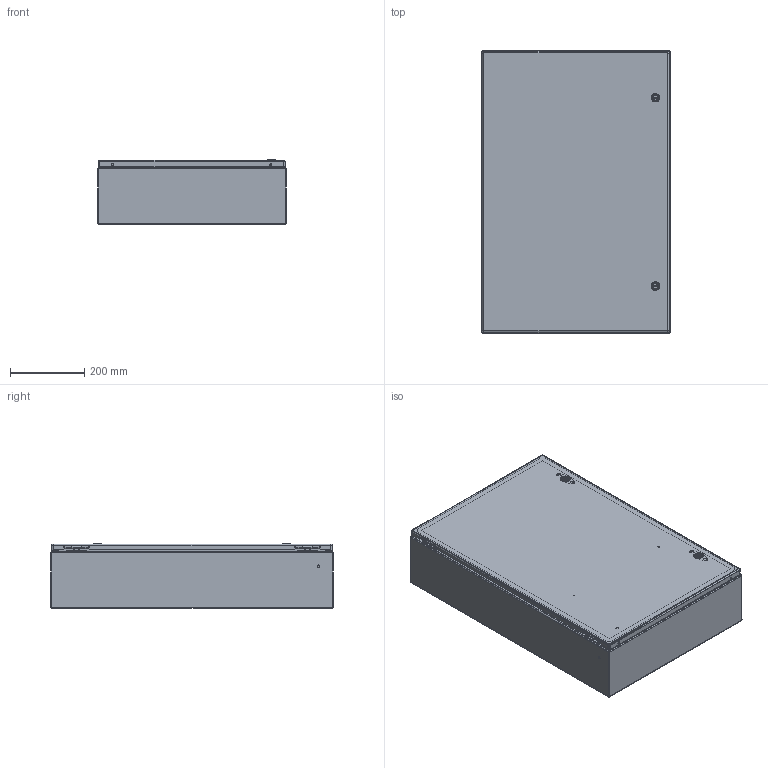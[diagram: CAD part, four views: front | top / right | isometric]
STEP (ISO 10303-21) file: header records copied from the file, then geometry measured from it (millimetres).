
FILE_DESCRIPTION (( 'STEP AP203' ), '1' );
FILE_NAME ('29407.step', '2015-03-30T06:16:04', ( '' ), ( '' ), 'SwSTEP 2.0', 'SolidWorks 2010', '' );
FILE_SCHEMA (( 'CONFIG_CONTROL_DESIGN' ));
Length unit declared in the file: inch
Products named in the file (24): 89076193; 89056623; 87929507; 87929767; 87929769_Installed on Pin; 89076399; 29407; 89116841; 89116840_default; 23271001_After Weld; 87937937_assy; 87937977_weldment; 87936136; 99401225; 87931362_87931362; 64101001; 64201001; 87541994_Installed Height; 87541995; 64202001; 64210001; 64203001; 87938006; 87543027
Assembly tree (32 placements, depth 4):
  29407
    87543027  x2
    87937937_assy
      64101001  x2
        87541995
        87541994_Installed Height
        64203001
        64202001
        64210001
        64201001
      87937977_weldment
        87931362_87931362  x2
        99401225
        87936136
      87938006
    89116841
      99401225
      23271001_After Weld  x4
      89116840_default
    87929507  x2
      87929769_Installed on Pin
      87929767
    89076399  x2
      89056623
      89076193
Bounding box: 508 x 762 x 173.1 mm (x, y, z)
Volume: 2151057.4 mm3; surface area: 2670280.5 mm2
Topology: 35 solids, 35 shells, 1541 faces, 3794 edges, 2344 vertices
Faces by surface type: plane 631, cylinder 510, bspline 224, torus 104, cone 64, sphere 8
Entity records: 34309 total; most frequent: CARTESIAN_POINT 9989, ORIENTED_EDGE 4564, DIRECTION 4346, EDGE_CURVE 2282, AXIS2_PLACEMENT_3D 1551, VERTEX_POINT 1404, VECTOR 1244, LINE 1244
